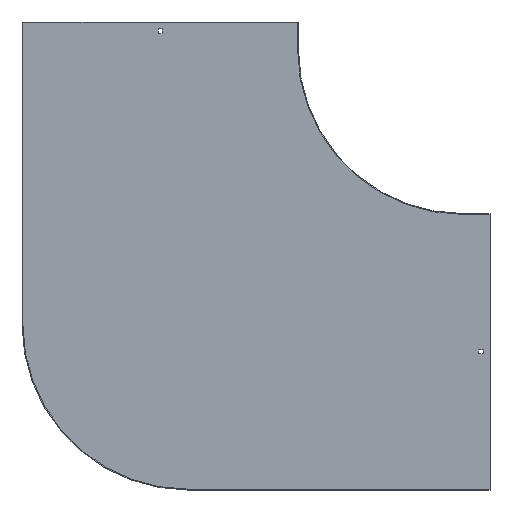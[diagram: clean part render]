
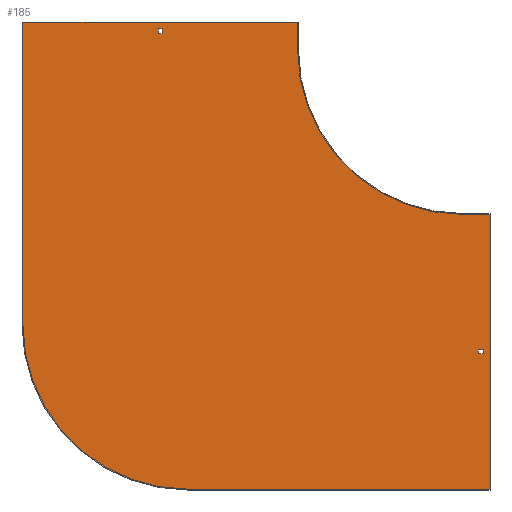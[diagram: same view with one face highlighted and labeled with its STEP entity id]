
A CAD part, front view. The second image highlights one B-rep face of the part: STEP entity #185.
In plain terms, the highlighted planar face has unit normal (0, -1, 0).
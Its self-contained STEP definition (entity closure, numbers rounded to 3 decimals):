
#6 = LINE ( 'NONE', #863, #506 ) ;
#7 = DIRECTION ( 'NONE',  ( 0., 1., 0. ) ) ;
#9 = DIRECTION ( 'NONE',  ( 1., 0., 0. ) ) ;
#15 = EDGE_LOOP ( 'NONE', ( #510, #741, #634, #616, #398, #51, #66, #410 ) ) ;
#20 = CARTESIAN_POINT ( 'NONE',  ( -546.75, -1.5, 0. ) ) ;
#28 = DIRECTION ( 'NONE',  ( 0., 0., 1. ) ) ;
#31 = DIRECTION ( 'NONE',  ( 0., 0., -1. ) ) ;
#32 = EDGE_CURVE ( 'NONE', #166, #220, #189, .T. ) ;
#33 = VERTEX_POINT ( 'NONE', #392 ) ;
#35 = EDGE_CURVE ( 'NONE', #504, #822, #653, .T. ) ;
#45 = EDGE_CURVE ( 'NONE', #822, #769, #145, .T. ) ;
#48 = EDGE_LOOP ( 'NONE', ( #831, #606, #457, #756 ) ) ;
#49 = CARTESIAN_POINT ( 'NONE',  ( 38., -1.5, -546.75 ) ) ;
#51 = ORIENTED_EDGE ( 'NONE', *, *, #35, .F. ) ;
#52 = DIRECTION ( 'NONE',  ( -1., 0., 0. ) ) ;
#53 = ORIENTED_EDGE ( 'NONE', *, *, #686, .F. ) ;
#55 = EDGE_CURVE ( 'NONE', #774, #265, #463, .T. ) ;
#59 = CARTESIAN_POINT ( 'NONE',  ( -546.75, -1.5, 29. ) ) ;
#62 = CARTESIAN_POINT ( 'NONE',  ( -546.75, -1.5, 38. ) ) ;
#66 = ORIENTED_EDGE ( 'NONE', *, *, #509, .F. ) ;
#71 = VECTOR ( 'NONE', #28, 1000. ) ;
#85 = ORIENTED_EDGE ( 'NONE', *, *, #214, .F. ) ;
#97 = VECTOR ( 'NONE', #511, 1000. ) ;
#110 = VECTOR ( 'NONE', #681, 1000. ) ;
#113 = DIRECTION ( 'NONE',  ( -1., 0., 0. ) ) ;
#126 = CARTESIAN_POINT ( 'NONE',  ( 0., -1.5, -300. ) ) ;
#128 = CARTESIAN_POINT ( 'NONE',  ( 29., -1.5, -546.75 ) ) ;
#134 = LINE ( 'NONE', #285, #366 ) ;
#142 = VERTEX_POINT ( 'NONE', #171 ) ;
#144 = CARTESIAN_POINT ( 'NONE',  ( -801.5, -1.5, 50. ) ) ;
#145 = LINE ( 'NONE', #423, #569 ) ;
#146 = VECTOR ( 'NONE', #222, 1000. ) ;
#148 = VECTOR ( 'NONE', #31, 1000. ) ;
#155 = DIRECTION ( 'NONE',  ( 0., 0., -1. ) ) ;
#157 = VERTEX_POINT ( 'NONE', #62 ) ;
#166 = VERTEX_POINT ( 'NONE', #59 ) ;
#171 = CARTESIAN_POINT ( 'NONE',  ( 29., -1.5, -553.25 ) ) ;
#184 = EDGE_CURVE ( 'NONE', #769, #718, #134, .T. ) ;
#185 = ADVANCED_FACE ( 'NONE', ( #814, #224, #490 ), #263, .T. ) ;
#187 = LINE ( 'NONE', #780, #97 ) ;
#189 = LINE ( 'NONE', #467, #622 ) ;
#214 = EDGE_CURVE ( 'NONE', #763, #381, #278, .T. ) ;
#215 = CARTESIAN_POINT ( 'NONE',  ( -553.25, -1.5, 29. ) ) ;
#220 = VERTEX_POINT ( 'NONE', #215 ) ;
#221 = DIRECTION ( 'NONE',  ( 0., 0., -1. ) ) ;
#222 = DIRECTION ( 'NONE',  ( 1., 0., 0. ) ) ;
#224 = FACE_OUTER_BOUND ( 'NONE', #15, .T. ) ;
#233 = CARTESIAN_POINT ( 'NONE',  ( 0., -1.5, -300. ) ) ;
#235 = CARTESIAN_POINT ( 'NONE',  ( 0., -1.5, -553.25 ) ) ;
#241 = DIRECTION ( 'NONE',  ( 0., 0., 1. ) ) ;
#263 = PLANE ( 'NONE',  #580 ) ;
#265 = VERTEX_POINT ( 'NONE', #332 ) ;
#270 = CARTESIAN_POINT ( 'NONE',  ( 0., -1.5, 0. ) ) ;
#273 = CARTESIAN_POINT ( 'NONE',  ( -800., -1.5, -500. ) ) ;
#278 = LINE ( 'NONE', #673, #680 ) ;
#285 = CARTESIAN_POINT ( 'NONE',  ( 50., -1.5, -800. ) ) ;
#286 = ORIENTED_EDGE ( 'NONE', *, *, #319, .F. ) ;
#301 = CARTESIAN_POINT ( 'NONE',  ( 50., -1.5, -300. ) ) ;
#307 = LINE ( 'NONE', #314, #753 ) ;
#309 = VERTEX_POINT ( 'NONE', #385 ) ;
#314 = CARTESIAN_POINT ( 'NONE',  ( -553.25, -1.5, 0. ) ) ;
#319 = EDGE_CURVE ( 'NONE', #381, #142, #187, .T. ) ;
#320 = CARTESIAN_POINT ( 'NONE',  ( -500., -1.5, -800. ) ) ;
#325 = DIRECTION ( 'NONE',  ( 0., 0., 1. ) ) ;
#332 = CARTESIAN_POINT ( 'NONE',  ( -800., -1.5, 50. ) ) ;
#338 = VECTOR ( 'NONE', #596, 1000. ) ;
#364 = LINE ( 'NONE', #235, #603 ) ;
#365 = VECTOR ( 'NONE', #325, 1000. ) ;
#366 = VECTOR ( 'NONE', #426, 1000. ) ;
#381 = VERTEX_POINT ( 'NONE', #128 ) ;
#383 = DIRECTION ( 'NONE',  ( 0., 0., -1. ) ) ;
#385 = CARTESIAN_POINT ( 'NONE',  ( -553.25, -1.5, 38. ) ) ;
#392 = CARTESIAN_POINT ( 'NONE',  ( -300., -1.5, 50. ) ) ;
#395 = CARTESIAN_POINT ( 'NONE',  ( 50., -1.5, -800. ) ) ;
#398 = ORIENTED_EDGE ( 'NONE', *, *, #45, .F. ) ;
#410 = ORIENTED_EDGE ( 'NONE', *, *, #760, .F. ) ;
#423 = CARTESIAN_POINT ( 'NONE',  ( 50., -1.5, -298.5 ) ) ;
#426 = DIRECTION ( 'NONE',  ( -1., 0., 0. ) ) ;
#442 = ORIENTED_EDGE ( 'NONE', *, *, #847, .F. ) ;
#446 = CARTESIAN_POINT ( 'NONE',  ( -300., -1.5, 0. ) ) ;
#455 = EDGE_CURVE ( 'NONE', #718, #774, #817, .T. ) ;
#457 = ORIENTED_EDGE ( 'NONE', *, *, #32, .T. ) ;
#463 = LINE ( 'NONE', #784, #365 ) ;
#467 = CARTESIAN_POINT ( 'NONE',  ( 0., -1.5, 29. ) ) ;
#471 = CARTESIAN_POINT ( 'NONE',  ( -500., -1.5, -500. ) ) ;
#490 = FACE_BOUND ( 'NONE', #48, .T. ) ;
#497 = DIRECTION ( 'NONE',  ( 0., -1., 0. ) ) ;
#504 = VERTEX_POINT ( 'NONE', #233 ) ;
#506 = VECTOR ( 'NONE', #812, 1000. ) ;
#509 = EDGE_CURVE ( 'NONE', #730, #504, #519, .T. ) ;
#510 = ORIENTED_EDGE ( 'NONE', *, *, #656, .F. ) ;
#511 = DIRECTION ( 'NONE',  ( 0., 0., -1. ) ) ;
#519 = CIRCLE ( 'NONE', #602, 300. ) ;
#549 = DIRECTION ( 'NONE',  ( 0., -1., 0. ) ) ;
#567 = CARTESIAN_POINT ( 'NONE',  ( 38., -1.5, -553.25 ) ) ;
#569 = VECTOR ( 'NONE', #383, 1000. ) ;
#580 = AXIS2_PLACEMENT_3D ( 'NONE', #270, #549, #796 ) ;
#596 = DIRECTION ( 'NONE',  ( 0., 0., -1. ) ) ;
#602 = AXIS2_PLACEMENT_3D ( 'NONE', #677, #497, #155 ) ;
#603 = VECTOR ( 'NONE', #9, 1000. ) ;
#606 = ORIENTED_EDGE ( 'NONE', *, *, #738, .T. ) ;
#616 = ORIENTED_EDGE ( 'NONE', *, *, #184, .F. ) ;
#622 = VECTOR ( 'NONE', #113, 1000. ) ;
#634 = ORIENTED_EDGE ( 'NONE', *, *, #455, .F. ) ;
#653 = LINE ( 'NONE', #126, #146 ) ;
#654 = EDGE_CURVE ( 'NONE', #309, #157, #6, .T. ) ;
#656 = EDGE_CURVE ( 'NONE', #265, #33, #748, .T. ) ;
#673 = CARTESIAN_POINT ( 'NONE',  ( 0., -1.5, -546.75 ) ) ;
#677 = CARTESIAN_POINT ( 'NONE',  ( 0., -1.5, 0. ) ) ;
#680 = VECTOR ( 'NONE', #52, 1000. ) ;
#681 = DIRECTION ( 'NONE',  ( 1., 0., 0. ) ) ;
#686 = EDGE_CURVE ( 'NONE', #694, #763, #771, .T. ) ;
#694 = VERTEX_POINT ( 'NONE', #567 ) ;
#704 = CARTESIAN_POINT ( 'NONE',  ( 38., -1.5, 0. ) ) ;
#718 = VERTEX_POINT ( 'NONE', #320 ) ;
#728 = CARTESIAN_POINT ( 'NONE',  ( -300., -1.5, 50. ) ) ;
#730 = VERTEX_POINT ( 'NONE', #446 ) ;
#738 = EDGE_CURVE ( 'NONE', #157, #166, #781, .T. ) ;
#739 = EDGE_CURVE ( 'NONE', #220, #309, #307, .T. ) ;
#741 = ORIENTED_EDGE ( 'NONE', *, *, #55, .F. ) ;
#748 = LINE ( 'NONE', #144, #110 ) ;
#753 = VECTOR ( 'NONE', #241, 1000. ) ;
#756 = ORIENTED_EDGE ( 'NONE', *, *, #739, .T. ) ;
#760 = EDGE_CURVE ( 'NONE', #33, #730, #804, .T. ) ;
#763 = VERTEX_POINT ( 'NONE', #49 ) ;
#769 = VERTEX_POINT ( 'NONE', #395 ) ;
#771 = LINE ( 'NONE', #704, #71 ) ;
#774 = VERTEX_POINT ( 'NONE', #273 ) ;
#778 = AXIS2_PLACEMENT_3D ( 'NONE', #471, #7, #221 ) ;
#780 = CARTESIAN_POINT ( 'NONE',  ( 29., -1.5, 0. ) ) ;
#781 = LINE ( 'NONE', #20, #148 ) ;
#784 = CARTESIAN_POINT ( 'NONE',  ( -800., -1.5, -500. ) ) ;
#796 = DIRECTION ( 'NONE',  ( 0., 0., -1. ) ) ;
#804 = LINE ( 'NONE', #728, #338 ) ;
#812 = DIRECTION ( 'NONE',  ( 1., 0., 0. ) ) ;
#814 = FACE_BOUND ( 'NONE', #862, .T. ) ;
#817 = CIRCLE ( 'NONE', #778, 300. ) ;
#822 = VERTEX_POINT ( 'NONE', #301 ) ;
#831 = ORIENTED_EDGE ( 'NONE', *, *, #654, .T. ) ;
#847 = EDGE_CURVE ( 'NONE', #142, #694, #364, .T. ) ;
#862 = EDGE_LOOP ( 'NONE', ( #85, #53, #442, #286 ) ) ;
#863 = CARTESIAN_POINT ( 'NONE',  ( 0., -1.5, 38. ) ) ;
